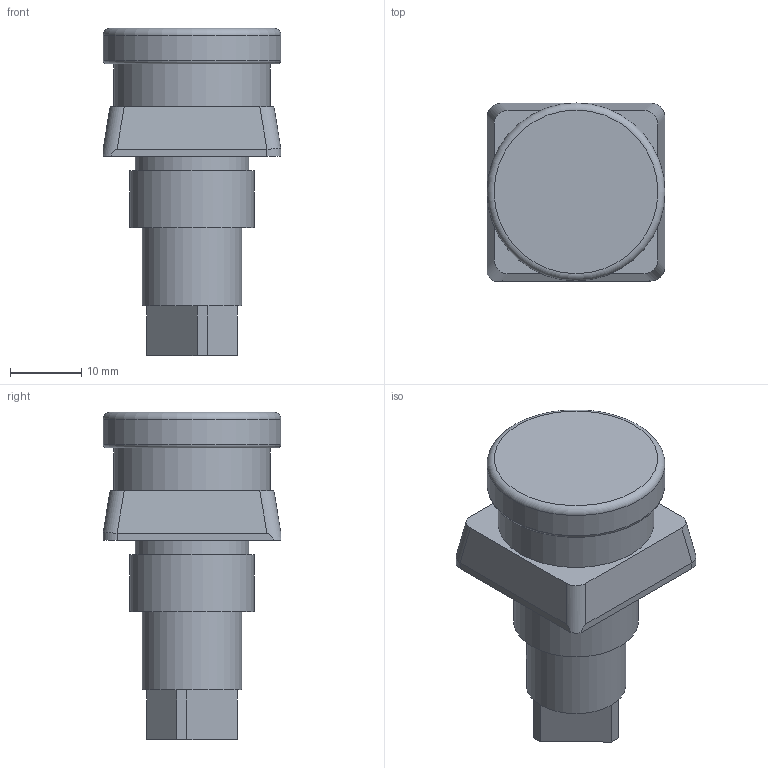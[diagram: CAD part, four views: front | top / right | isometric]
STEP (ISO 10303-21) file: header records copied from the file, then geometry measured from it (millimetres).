
FILE_DESCRIPTION((''),'2;1');
FILE_NAME('C:\Dokumente und Einstellungen\Andi.LEMAR\Desktop\Notstopp.stp','2014-08-08T21:55:53',('Andi'),(''),'Autodesk Inventor 2013','Autodesk Inventor 2013','');
FILE_SCHEMA(('AUTOMOTIVE_DESIGN { 1 0 10303 214 1 1 1 1 }'));
Length unit declared in the file: millimetre
Products named in the file (1): 008764
Bounding box: 25 x 25 x 46 mm (x, y, z)
Volume: 13032.1 mm3; surface area: 4377 mm2
Topology: 1 solids, 1 shells, 43 faces, 100 edges, 66 vertices
Faces by surface type: plane 29, cylinder 12, torus 2
Full cylindrical faces by diameter (mm): 14 x1, 16 x1, 17.5 x1, 22 x1, 25 x1
Entity records: 1279 total; most frequent: DIRECTION 212, CARTESIAN_POINT 203, ORIENTED_EDGE 186, EDGE_CURVE 93, AXIS2_PLACEMENT_3D 75, VERTEX_POINT 66, VECTOR 62, LINE 62
